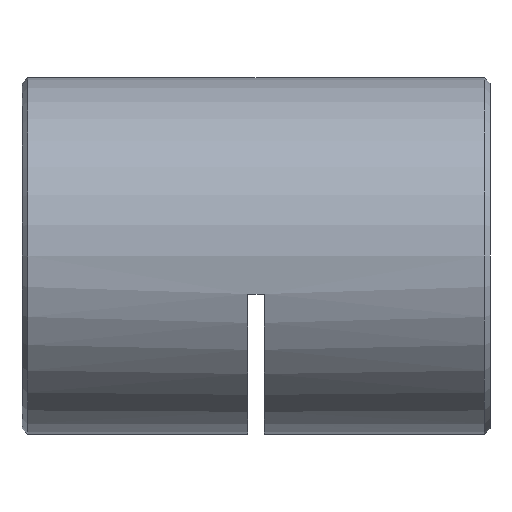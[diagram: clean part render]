
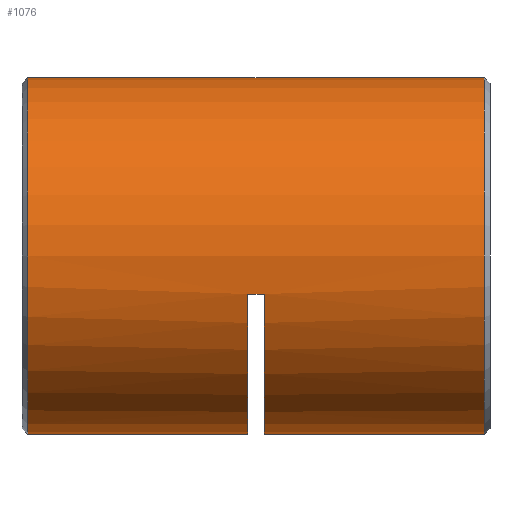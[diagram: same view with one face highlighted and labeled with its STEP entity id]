
A CAD part, left-side view. The second image highlights one B-rep face of the part: STEP entity #1076.
In plain terms, the highlighted cylindrical face has radius 16 mm (diameter 32 mm), a partial arc.
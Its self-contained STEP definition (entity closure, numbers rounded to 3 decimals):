
#17 = DIRECTION ( 'NONE',  ( 0., -1., 0. ) ) ;
#36 = DIRECTION ( 'NONE',  ( 0., -1., 0. ) ) ;
#195 = EDGE_CURVE ( 'NONE', #234, #1785, #5340, .T. ) ;
#234 = VERTEX_POINT ( 'NONE', #1109 ) ;
#420 = CIRCLE ( 'NONE', #3475, 16. ) ;
#477 = EDGE_CURVE ( 'NONE', #2143, #5094, #420, .T. ) ;
#481 = LINE ( 'NONE', #2811, #4606 ) ;
#646 = EDGE_CURVE ( 'NONE', #4070, #2850, #1478, .T. ) ;
#729 = FACE_OUTER_BOUND ( 'NONE', #6380, .T. ) ;
#777 = ORIENTED_EDGE ( 'NONE', *, *, #477, .F. ) ;
#817 = EDGE_CURVE ( 'NONE', #1785, #4070, #5563, .T. ) ;
#1012 = DIRECTION ( 'NONE',  ( 0., 0., -1. ) ) ;
#1076 = ADVANCED_FACE ( 'NONE', ( #729 ), #3032, .T. ) ;
#1109 = CARTESIAN_POINT ( 'NONE',  ( -15.632, 20.5, -3.413 ) ) ;
#1341 = DIRECTION ( 'NONE',  ( 0., -1., 0. ) ) ;
#1394 = DIRECTION ( 'NONE',  ( 0., 0., -1. ) ) ;
#1478 = CIRCLE ( 'NONE', #1680, 16. ) ;
#1680 = AXIS2_PLACEMENT_3D ( 'NONE', #2297, #4233, #5745 ) ;
#1785 = VERTEX_POINT ( 'NONE', #5565 ) ;
#1980 = DIRECTION ( 'NONE',  ( 0., -1., 0. ) ) ;
#2084 = CARTESIAN_POINT ( 'NONE',  ( 0., 22., -16. ) ) ;
#2112 = DIRECTION ( 'NONE',  ( 0., 0., -1. ) ) ;
#2143 = VERTEX_POINT ( 'NONE', #2806 ) ;
#2297 = CARTESIAN_POINT ( 'NONE',  ( 0., 0.75, 0. ) ) ;
#2376 = DIRECTION ( 'NONE',  ( 0., -1., 0. ) ) ;
#2408 = ORIENTED_EDGE ( 'NONE', *, *, #2627, .T. ) ;
#2433 = AXIS2_PLACEMENT_3D ( 'NONE', #5351, #36, #1012 ) ;
#2439 = AXIS2_PLACEMENT_3D ( 'NONE', #2624, #4975, #3118 ) ;
#2449 = LINE ( 'NONE', #5387, #5368 ) ;
#2464 = LINE ( 'NONE', #6367, #2552 ) ;
#2552 = VECTOR ( 'NONE', #17, 1000. ) ;
#2624 = CARTESIAN_POINT ( 'NONE',  ( 0., 42.5, 0. ) ) ;
#2627 = EDGE_CURVE ( 'NONE', #2143, #234, #481, .T. ) ;
#2806 = CARTESIAN_POINT ( 'NONE',  ( -15.632, 22., -3.413 ) ) ;
#2811 = CARTESIAN_POINT ( 'NONE',  ( -15.632, 21.25, -3.413 ) ) ;
#2850 = VERTEX_POINT ( 'NONE', #5498 ) ;
#2892 = DIRECTION ( 'NONE',  ( 0., -1., 0. ) ) ;
#2976 = AXIS2_PLACEMENT_3D ( 'NONE', #5062, #3523, #2112 ) ;
#3032 = CYLINDRICAL_SURFACE ( 'NONE', #2439, 16. ) ;
#3118 = DIRECTION ( 'NONE',  ( 0., 0., -1. ) ) ;
#3341 = CARTESIAN_POINT ( 'NONE',  ( 0., 42.5, -16. ) ) ;
#3355 = CARTESIAN_POINT ( 'NONE',  ( 0., 22., 0. ) ) ;
#3437 = CARTESIAN_POINT ( 'NONE',  ( 0., 41.75, 16. ) ) ;
#3475 = AXIS2_PLACEMENT_3D ( 'NONE', #3355, #2376, #1394 ) ;
#3523 = DIRECTION ( 'NONE',  ( 0., -1., 0. ) ) ;
#3675 = CARTESIAN_POINT ( 'NONE',  ( 0., 41.75, -16. ) ) ;
#4070 = VERTEX_POINT ( 'NONE', #5279 ) ;
#4139 = VERTEX_POINT ( 'NONE', #3437 ) ;
#4233 = DIRECTION ( 'NONE',  ( 0., 1., 0. ) ) ;
#4297 = ORIENTED_EDGE ( 'NONE', *, *, #4438, .T. ) ;
#4311 = ORIENTED_EDGE ( 'NONE', *, *, #4421, .F. ) ;
#4382 = ORIENTED_EDGE ( 'NONE', *, *, #195, .T. ) ;
#4421 = EDGE_CURVE ( 'NONE', #4139, #2850, #2464, .T. ) ;
#4438 = EDGE_CURVE ( 'NONE', #4139, #6050, #6308, .T. ) ;
#4606 = VECTOR ( 'NONE', #1341, 1000. ) ;
#4682 = ORIENTED_EDGE ( 'NONE', *, *, #817, .T. ) ;
#4975 = DIRECTION ( 'NONE',  ( 0., -1., 0. ) ) ;
#5062 = CARTESIAN_POINT ( 'NONE',  ( 0., 20.5, 0. ) ) ;
#5094 = VERTEX_POINT ( 'NONE', #2084 ) ;
#5279 = CARTESIAN_POINT ( 'NONE',  ( 0., 0.75, -16. ) ) ;
#5340 = CIRCLE ( 'NONE', #2976, 16. ) ;
#5351 = CARTESIAN_POINT ( 'NONE',  ( 0., 41.75, 0. ) ) ;
#5368 = VECTOR ( 'NONE', #1980, 1000. ) ;
#5387 = CARTESIAN_POINT ( 'NONE',  ( 0., 42.5, -16. ) ) ;
#5398 = EDGE_CURVE ( 'NONE', #6050, #5094, #2449, .T. ) ;
#5498 = CARTESIAN_POINT ( 'NONE',  ( 0., 0.75, 16. ) ) ;
#5563 = LINE ( 'NONE', #3341, #5883 ) ;
#5565 = CARTESIAN_POINT ( 'NONE',  ( 0., 20.5, -16. ) ) ;
#5745 = DIRECTION ( 'NONE',  ( 0., 0., 1. ) ) ;
#5879 = ORIENTED_EDGE ( 'NONE', *, *, #646, .T. ) ;
#5883 = VECTOR ( 'NONE', #2892, 1000. ) ;
#6025 = ORIENTED_EDGE ( 'NONE', *, *, #5398, .T. ) ;
#6050 = VERTEX_POINT ( 'NONE', #3675 ) ;
#6308 = CIRCLE ( 'NONE', #2433, 16. ) ;
#6367 = CARTESIAN_POINT ( 'NONE',  ( 0., 42.5, 16. ) ) ;
#6380 = EDGE_LOOP ( 'NONE', ( #4311, #4297, #6025, #777, #2408, #4382, #4682, #5879 ) ) ;
